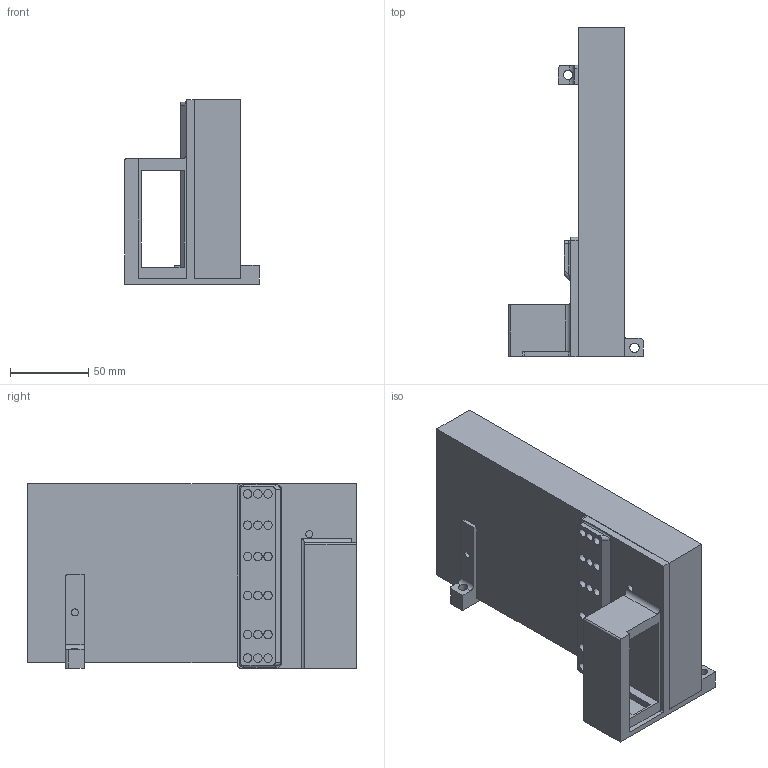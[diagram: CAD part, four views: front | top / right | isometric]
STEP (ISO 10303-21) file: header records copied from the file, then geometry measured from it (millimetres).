
FILE_DESCRIPTION(/* description */ (''),/* implementation_level */ '2;1');
FILE_NAME(/* name */ 'G:/Dropbox/CBA/projects/squidworks/circuits/pdbs/psu-mw350/PSU-MW350 v4.step',/* time_stamp */ '2019-10-01T20:49:21-04:00',/* author */ (''),/* organization */ (''),/* preprocessor_version */ 'ST-DEVELOPER v18',/* originating_system */ 'Autodesk Translation Framework v8.6.0.1094',/* authorisation */ '');
FILE_SCHEMA (('AUTOMOTIVE_DESIGN { 1 0 10303 214 3 1 1 }'));
Length unit declared in the file: millimetre
Products named in the file (1): PSU-MW350
Bounding box: 86 x 210.25 x 117.97 mm (x, y, z)
Volume: 813857 mm3; surface area: 108826.8 mm2
Topology: 3 solids, 3 shells, 128 faces, 304 edges, 200 vertices
Faces by surface type: plane 71, cylinder 53, torus 2, bspline 2
Full cylindrical faces by diameter (mm): 4.25 x2, 4.5 x2, 5.4 x18, 6 x3
Entity records: 3846 total; most frequent: CARTESIAN_POINT 717, DIRECTION 666, ORIENTED_EDGE 608, EDGE_CURVE 304, AXIS2_PLACEMENT_3D 238, VERTEX_POINT 200, LINE 190, VECTOR 190
